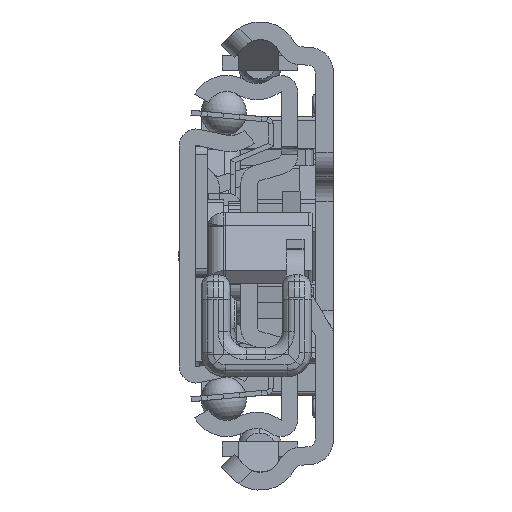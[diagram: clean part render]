
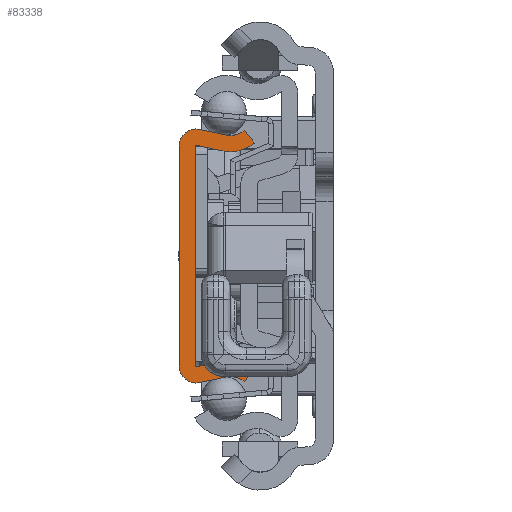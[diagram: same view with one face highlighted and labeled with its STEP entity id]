
A CAD part, left-side view. The second image highlights one B-rep face of the part: STEP entity #83338.
In plain terms, the highlighted planar face has unit normal (-1, 0, 0).
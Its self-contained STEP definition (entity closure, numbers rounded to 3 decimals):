
#77680=CARTESIAN_POINT('',(0.,-6.29,-17.65));
#77681=DIRECTION('',(-1.,0.,0.));
#77682=DIRECTION('',(0.,-0.629,0.778));
#77683=AXIS2_PLACEMENT_3D('',#77680,#77681,#77682);
#77685=DIRECTION('',(0.,0.977,-0.213));
#77686=VECTOR('',#77685,3.218);
#77687=CARTESIAN_POINT('',(0.,-5.692,-14.915));
#77688=LINE('',#77687,#77686);
#77689=CARTESIAN_POINT('',(0.,-2.1,-13.55));
#77690=DIRECTION('',(1.,0.,0.));
#77691=DIRECTION('',(0.,-0.213,-0.977));
#77692=AXIS2_PLACEMENT_3D('',#77689,#77690,#77691);
#77694=DIRECTION('',(0.,0.,1.));
#77695=VECTOR('',#77694,27.1);
#77696=CARTESIAN_POINT('',(0.,0.,-13.55));
#77697=LINE('',#77696,#77695);
#77698=CARTESIAN_POINT('',(0.,-2.1,13.55));
#77699=DIRECTION('',(1.,0.,0.));
#77700=DIRECTION('',(0.,1.,0.));
#77701=AXIS2_PLACEMENT_3D('',#77698,#77699,#77700);
#77703=DIRECTION('',(0.,-0.977,-0.213));
#77704=VECTOR('',#77703,3.218);
#77705=CARTESIAN_POINT('',(0.,-2.548,15.602));
#77706=LINE('',#77705,#77704);
#77707=CARTESIAN_POINT('',(0.,-6.29,17.65));
#77708=DIRECTION('',(-1.,0.,0.));
#77709=DIRECTION('',(0.,0.213,-0.977));
#77710=AXIS2_PLACEMENT_3D('',#77707,#77708,#77709);
#77712=DIRECTION('',(0.,-0.629,-0.778));
#77713=VECTOR('',#77712,2.);
#77714=CARTESIAN_POINT('',(0.,-8.05,15.472));
#77715=LINE('',#77714,#77713);
#77716=CARTESIAN_POINT('',(0.,-6.29,17.65));
#77717=DIRECTION('',(1.,0.,0.));
#77718=DIRECTION('',(0.,-0.629,-0.778));
#77719=AXIS2_PLACEMENT_3D('',#77716,#77717,#77718);
#77721=DIRECTION('',(0.,0.977,0.213));
#77722=VECTOR('',#77721,3.218);
#77723=CARTESIAN_POINT('',(0.,-5.265,12.961));
#77724=LINE('',#77723,#77722);
#77725=CARTESIAN_POINT('',(0.,-2.1,13.55));
#77726=DIRECTION('',(-1.,0.,0.));
#77727=DIRECTION('',(0.,-0.213,0.977));
#77728=AXIS2_PLACEMENT_3D('',#77725,#77726,#77727);
#77730=DIRECTION('',(0.,0.,-1.));
#77731=VECTOR('',#77730,27.1);
#77732=CARTESIAN_POINT('',(0.,-2.,13.55));
#77733=LINE('',#77732,#77731);
#77734=CARTESIAN_POINT('',(0.,-2.1,-13.55));
#77735=DIRECTION('',(-1.,0.,0.));
#77736=DIRECTION('',(0.,1.,0.));
#77737=AXIS2_PLACEMENT_3D('',#77734,#77735,#77736);
#77739=DIRECTION('',(0.,-0.977,0.213));
#77740=VECTOR('',#77739,3.218);
#77741=CARTESIAN_POINT('',(0.,-2.121,-13.648));
#77742=LINE('',#77741,#77740);
#77743=CARTESIAN_POINT('',(0.,-6.29,-17.65));
#77744=DIRECTION('',(1.,0.,0.));
#77745=DIRECTION('',(0.,0.213,0.977));
#77746=AXIS2_PLACEMENT_3D('',#77743,#77744,#77745);
#77748=DIRECTION('',(0.,0.629,-0.778));
#77749=VECTOR('',#77748,2.);
#77750=CARTESIAN_POINT('',(0.,-9.307,-13.917));
#77751=LINE('',#77750,#77749);
#82267=CARTESIAN_POINT('',(0.,-8.05,-15.472));
#82268=CARTESIAN_POINT('',(0.,-5.692,-14.915));
#82269=VERTEX_POINT('',#82267);
#82270=VERTEX_POINT('',#82268);
#82271=CARTESIAN_POINT('',(0.,-2.548,-15.602));
#82272=VERTEX_POINT('',#82271);
#82273=CARTESIAN_POINT('',(0.,0.,-13.55));
#82274=VERTEX_POINT('',#82273);
#82275=CARTESIAN_POINT('',(0.,0.,13.55));
#82276=VERTEX_POINT('',#82275);
#82277=CARTESIAN_POINT('',(0.,-2.548,15.602));
#82278=VERTEX_POINT('',#82277);
#82279=CARTESIAN_POINT('',(0.,-5.692,14.915));
#82280=VERTEX_POINT('',#82279);
#82281=CARTESIAN_POINT('',(0.,-8.05,15.472));
#82282=VERTEX_POINT('',#82281);
#82283=CARTESIAN_POINT('',(0.,-9.307,13.917));
#82284=VERTEX_POINT('',#82283);
#82285=CARTESIAN_POINT('',(0.,-5.265,12.961));
#82286=VERTEX_POINT('',#82285);
#82287=CARTESIAN_POINT('',(0.,-2.121,13.648));
#82288=VERTEX_POINT('',#82287);
#82289=CARTESIAN_POINT('',(0.,-2.,13.55));
#82290=VERTEX_POINT('',#82289);
#82291=CARTESIAN_POINT('',(0.,-2.,-13.55));
#82292=VERTEX_POINT('',#82291);
#82293=CARTESIAN_POINT('',(0.,-2.121,-13.648));
#82294=VERTEX_POINT('',#82293);
#82295=CARTESIAN_POINT('',(0.,-5.265,-12.961));
#82296=VERTEX_POINT('',#82295);
#82297=CARTESIAN_POINT('',(0.,-9.307,-13.917));
#82298=VERTEX_POINT('',#82297);
#83299=CARTESIAN_POINT('',(0.,0.,0.));
#83300=DIRECTION('',(1.,0.,0.));
#83301=DIRECTION('',(0.,-1.,0.));
#83302=AXIS2_PLACEMENT_3D('',#83299,#83300,#83301);
#83303=PLANE('',#83302);
#83305=ORIENTED_EDGE('',*,*,#83304,.T.);
#83307=ORIENTED_EDGE('',*,*,#83306,.T.);
#83309=ORIENTED_EDGE('',*,*,#83308,.T.);
#83311=ORIENTED_EDGE('',*,*,#83310,.T.);
#83313=ORIENTED_EDGE('',*,*,#83312,.T.);
#83315=ORIENTED_EDGE('',*,*,#83314,.T.);
#83317=ORIENTED_EDGE('',*,*,#83316,.T.);
#83319=ORIENTED_EDGE('',*,*,#83318,.T.);
#83321=ORIENTED_EDGE('',*,*,#83320,.T.);
#83323=ORIENTED_EDGE('',*,*,#83322,.T.);
#83325=ORIENTED_EDGE('',*,*,#83324,.T.);
#83327=ORIENTED_EDGE('',*,*,#83326,.T.);
#83329=ORIENTED_EDGE('',*,*,#83328,.T.);
#83331=ORIENTED_EDGE('',*,*,#83330,.T.);
#83333=ORIENTED_EDGE('',*,*,#83332,.T.);
#83335=ORIENTED_EDGE('',*,*,#83334,.T.);
#83336=EDGE_LOOP('',(#83305,#83307,#83309,#83311,#83313,#83315,#83317,#83319,
#83321,#83323,#83325,#83327,#83329,#83331,#83333,#83335));
#83337=FACE_OUTER_BOUND('',#83336,.F.);
#77684=CIRCLE('',#77683,2.8);
#77693=CIRCLE('',#77692,2.1);
#77702=CIRCLE('',#77701,2.1);
#77711=CIRCLE('',#77710,2.8);
#77720=CIRCLE('',#77719,4.8);
#77729=CIRCLE('',#77728,0.1);
#77738=CIRCLE('',#77737,0.1);
#77747=CIRCLE('',#77746,4.8);
#83304=EDGE_CURVE('',#82269,#82270,#77684,.T.);
#83306=EDGE_CURVE('',#82270,#82272,#77688,.T.);
#83308=EDGE_CURVE('',#82272,#82274,#77693,.T.);
#83310=EDGE_CURVE('',#82274,#82276,#77697,.T.);
#83312=EDGE_CURVE('',#82276,#82278,#77702,.T.);
#83314=EDGE_CURVE('',#82278,#82280,#77706,.T.);
#83316=EDGE_CURVE('',#82280,#82282,#77711,.T.);
#83318=EDGE_CURVE('',#82282,#82284,#77715,.T.);
#83320=EDGE_CURVE('',#82284,#82286,#77720,.T.);
#83322=EDGE_CURVE('',#82286,#82288,#77724,.T.);
#83324=EDGE_CURVE('',#82288,#82290,#77729,.T.);
#83326=EDGE_CURVE('',#82290,#82292,#77733,.T.);
#83328=EDGE_CURVE('',#82292,#82294,#77738,.T.);
#83330=EDGE_CURVE('',#82294,#82296,#77742,.T.);
#83332=EDGE_CURVE('',#82296,#82298,#77747,.T.);
#83334=EDGE_CURVE('',#82298,#82269,#77751,.T.);
#83338=ADVANCED_FACE('',(#83337),#83303,.F.);
